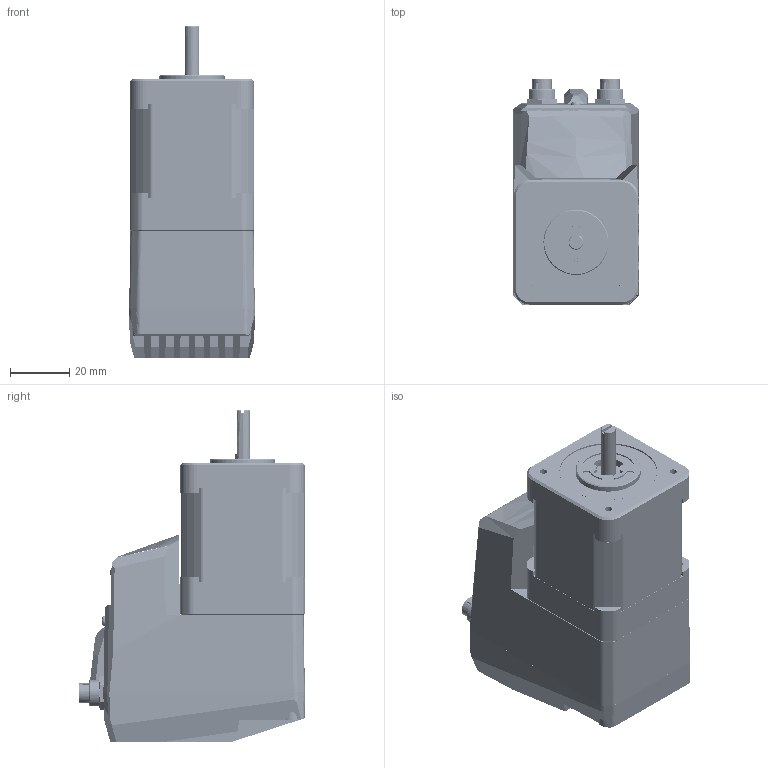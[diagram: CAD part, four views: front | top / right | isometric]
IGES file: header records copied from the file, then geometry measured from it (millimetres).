
Start section: SolidWorks IGES file using analytic representation for surfaces
Global section: file name: \\myodrive\Public\CAD Files\Motors\CoolmuscleMotors\CM1-InterfaceOptions\CM1 EtherCAT\CM1-E-17\CM1-E-17L30.IGS; native system: SolidWorks 2018; preprocessor: SolidWorks 2018; author: Chris Murray; date: 180517.103020; units: millimetre
Bounding box: 42.42 x 76.22 x 112.02 mm (x, y, z)
Surface area: 54919.6 mm2 (no closed solid volume)
Topology: 0 solids, 0 shells, 2523 faces, 26485 edges, 26455 vertices
Faces by surface type: bspline 1641, revolution 882
